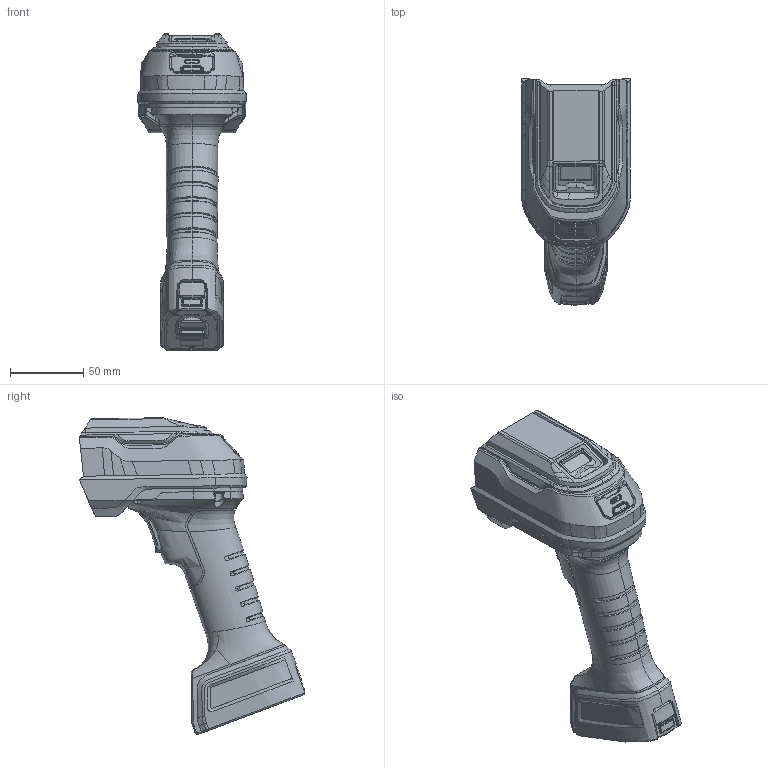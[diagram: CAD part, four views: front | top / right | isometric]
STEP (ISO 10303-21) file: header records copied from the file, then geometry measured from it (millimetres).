
FILE_DESCRIPTION((''),'2;1');
FILE_NAME('000-00_ASM','2024-06-26T21:32:03',('qinyangfan'),(''),'CREO PARAMETRIC BY PTC INC, 2020044','CREO PARAMETRIC BY PTC INC, 2020044','');
FILE_SCHEMA(('CONFIG_CONTROL_DESIGN'));
Products named in the file (16): DE-12-004420; DE-12-004421; DE-20-024140_ASM; DE-17-003206; DE-19-009308; DE-18-000225; DE-20-026362_ASM; ASM0001_ASM; 0003_ASM; DE-12-004416; DE-12-004415; TIP-M3X4-4_5X5-SO-ET-04231654; DE-20-024133_ASM; DE-20-024132_ASM; DOCUMENT_A_1_ASM; 000-00_ASM
Assembly tree (16 placements, depth 6):
  000-00_ASM
    0003_ASM
      ASM0001_ASM
        DE-20-026362_ASM
          DE-20-024140_ASM
            DE-12-004420
            DE-12-004421
          DE-17-003206
          DE-19-009308
          DE-18-000225
    DOCUMENT_A_1_ASM
      DE-20-024132_ASM
        DE-20-024133_ASM
          DE-12-004416
          DE-12-004415
          TIP-M3X4-4_5X5-SO-ET-04231654  x2
Bounding box: 74.01 x 153.94 x 215.9 mm (x, y, z)
Topology: 8 solids, 19 shells, 5323 faces, 14033 edges, 8778 vertices
Faces by surface type: bspline 2612, plane 1442, cylinder 661, cone 310, extrusion 205, torus 81, sphere 12
Entity records: 469944 total; most frequent: CARTESIAN_POINT 364206, ORIENTED_EDGE 27008, EDGE_CURVE 13508, DIRECTION 13159, VERTEX_POINT 8480, B_SPLINE_CURVE_WITH_KNOTS 7383, EDGE_LOOP 5285, FACE_OUTER_BOUND 5133
